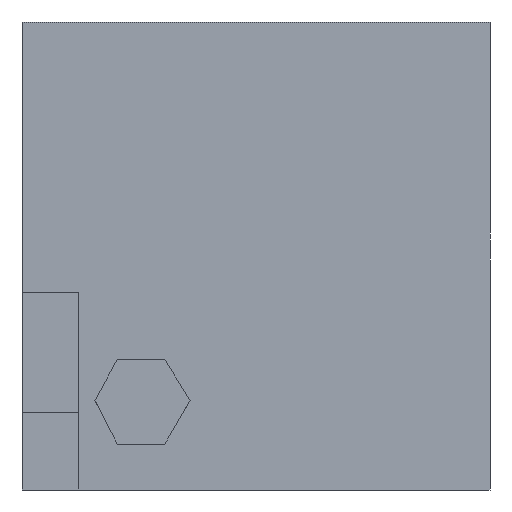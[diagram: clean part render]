
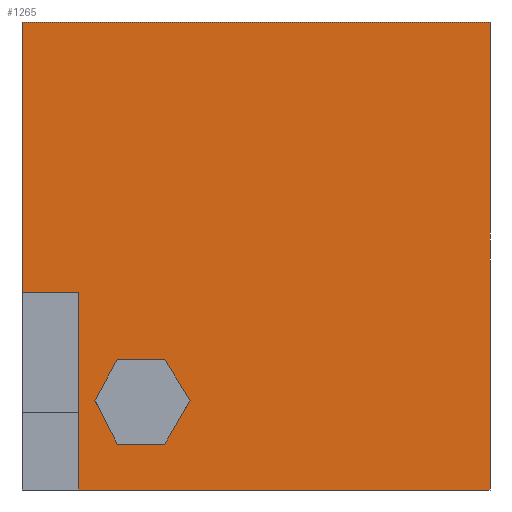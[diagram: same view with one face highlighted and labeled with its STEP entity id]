
A CAD part, front view. The second image highlights one B-rep face of the part: STEP entity #1265.
In plain terms, the highlighted planar face has unit normal (0, -1, 0).
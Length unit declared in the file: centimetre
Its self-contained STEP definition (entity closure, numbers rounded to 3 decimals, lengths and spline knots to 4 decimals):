
#16 = FACE_BOUND ( 'NONE', #440, .T. ) ;
#22 = CARTESIAN_POINT ( 'NONE',  ( 305.1581, 0., 98.0786 ) ) ;
#29 = CARTESIAN_POINT ( 'NONE',  ( 1000., 0., 1000. ) ) ;
#45 = CARTESIAN_POINT ( 'NONE',  ( 121.091, 0., 422.069 ) ) ;
#49 = VERTEX_POINT ( 'NONE', #849 ) ;
#64 = LINE ( 'NONE', #1094, #752 ) ;
#94 = CARTESIAN_POINT ( 'NONE',  ( 0., 0., 0. ) ) ;
#103 = CARTESIAN_POINT ( 'NONE',  ( 121.091, 0., 422.069 ) ) ;
#113 = ORIENTED_EDGE ( 'NONE', *, *, #590, .F. ) ;
#122 = DIRECTION ( 'NONE',  ( 1., 0., 0. ) ) ;
#149 = VERTEX_POINT ( 'NONE', #362 ) ;
#150 = VERTEX_POINT ( 'NONE', #782 ) ;
#153 = ORIENTED_EDGE ( 'NONE', *, *, #1056, .F. ) ;
#155 = VECTOR ( 'NONE', #673, 100. ) ;
#159 = DIRECTION ( 'NONE',  ( -0.532, 0., 0.847 ) ) ;
#161 = VERTEX_POINT ( 'NONE', #574 ) ;
#188 = EDGE_CURVE ( 'NONE', #498, #885, #768, .T. ) ;
#204 = LINE ( 'NONE', #103, #322 ) ;
#216 = CARTESIAN_POINT ( 'NONE',  ( 1000., 0., 1000. ) ) ;
#250 = EDGE_CURVE ( 'NONE', #505, #1040, #1027, .T. ) ;
#261 = EDGE_CURVE ( 'NONE', #885, #659, #604, .T. ) ;
#263 = VECTOR ( 'NONE', #464, 100. ) ;
#264 = CARTESIAN_POINT ( 'NONE',  ( 0., 0., 1000. ) ) ;
#311 = FACE_OUTER_BOUND ( 'NONE', #653, .T. ) ;
#319 = CARTESIAN_POINT ( 'NONE',  ( 155.8047, 0., 191.8682 ) ) ;
#322 = VECTOR ( 'NONE', #734, 100. ) ;
#339 = VECTOR ( 'NONE', #831, 100. ) ;
#343 = VECTOR ( 'NONE', #122, 100. ) ;
#348 = EDGE_CURVE ( 'NONE', #505, #545, #204, .T. ) ;
#362 = CARTESIAN_POINT ( 'NONE',  ( 305.1581, 0., 278.0974 ) ) ;
#373 = ORIENTED_EDGE ( 'NONE', *, *, #261, .F. ) ;
#409 = EDGE_CURVE ( 'NONE', #49, #877, #1178, .T. ) ;
#437 = CARTESIAN_POINT ( 'NONE',  ( 359.3076, 0., 191.8682 ) ) ;
#440 = EDGE_LOOP ( 'NONE', ( #153, #944, #1029, #1067, #1266, #113 ) ) ;
#448 = VECTOR ( 'NONE', #1171, 100. ) ;
#457 = EDGE_CURVE ( 'NONE', #150, #49, #839, .T. ) ;
#458 = VERTEX_POINT ( 'NONE', #437 ) ;
#464 = DIRECTION ( 'NONE',  ( 1., 0., 0. ) ) ;
#474 = EDGE_CURVE ( 'NONE', #498, #1040, #534, .T. ) ;
#497 = DIRECTION ( 'NONE',  ( 1., 0., 0. ) ) ;
#498 = VERTEX_POINT ( 'NONE', #264 ) ;
#505 = VERTEX_POINT ( 'NONE', #45 ) ;
#506 = CARTESIAN_POINT ( 'NONE',  ( 1000., 0., 0. ) ) ;
#534 = LINE ( 'NONE', #747, #448 ) ;
#545 = VERTEX_POINT ( 'NONE', #1215 ) ;
#574 = CARTESIAN_POINT ( 'NONE',  ( 203.4067, 0., 278.0974 ) ) ;
#590 = EDGE_CURVE ( 'NONE', #149, #161, #1319, .T. ) ;
#604 = LINE ( 'NONE', #216, #1350 ) ;
#620 = CARTESIAN_POINT ( 'NONE',  ( 305.1581, 0., 98.0786 ) ) ;
#629 = DIRECTION ( 'NONE',  ( 0., 0., 1. ) ) ;
#634 = ORIENTED_EDGE ( 'NONE', *, *, #188, .F. ) ;
#635 = LINE ( 'NONE', #620, #339 ) ;
#642 = VECTOR ( 'NONE', #972, 100. ) ;
#653 = EDGE_LOOP ( 'NONE', ( #1314, #843, #1114, #373, #634, #1246 ) ) ;
#659 = VERTEX_POINT ( 'NONE', #506 ) ;
#673 = DIRECTION ( 'NONE',  ( -1., 0., 0. ) ) ;
#734 = DIRECTION ( 'NONE',  ( 0., 0., -1. ) ) ;
#743 = DIRECTION ( 'NONE',  ( 0., 1., 0. ) ) ;
#747 = CARTESIAN_POINT ( 'NONE',  ( 0., 0., 1000. ) ) ;
#752 = VECTOR ( 'NONE', #159, 100. ) ;
#768 = LINE ( 'NONE', #798, #263 ) ;
#782 = CARTESIAN_POINT ( 'NONE',  ( 155.8047, 0., 191.8682 ) ) ;
#798 = CARTESIAN_POINT ( 'NONE',  ( 0., 0., 1000. ) ) ;
#807 = DIRECTION ( 'NONE',  ( -1., 0., 0. ) ) ;
#814 = CARTESIAN_POINT ( 'NONE',  ( 0., 0., 422.069 ) ) ;
#831 = DIRECTION ( 'NONE',  ( 0.5, 0., 0.866 ) ) ;
#839 = LINE ( 'NONE', #319, #1111 ) ;
#843 = ORIENTED_EDGE ( 'NONE', *, *, #348, .T. ) ;
#849 = CARTESIAN_POINT ( 'NONE',  ( 203.4067, 0., 98.0786 ) ) ;
#877 = VERTEX_POINT ( 'NONE', #22 ) ;
#885 = VERTEX_POINT ( 'NONE', #29 ) ;
#907 = CARTESIAN_POINT ( 'NONE',  ( 305.1581, 0., 278.0974 ) ) ;
#938 = DIRECTION ( 'NONE',  ( 0., 0., -1. ) ) ;
#944 = ORIENTED_EDGE ( 'NONE', *, *, #1234, .F. ) ;
#972 = DIRECTION ( 'NONE',  ( -0.483, 0., -0.875 ) ) ;
#981 = CARTESIAN_POINT ( 'NONE',  ( 203.4067, 0., 98.0786 ) ) ;
#1027 = LINE ( 'NONE', #814, #1179 ) ;
#1029 = ORIENTED_EDGE ( 'NONE', *, *, #409, .F. ) ;
#1031 = LINE ( 'NONE', #94, #1342 ) ;
#1036 = CARTESIAN_POINT ( 'NONE',  ( 203.4067, 0., 278.0974 ) ) ;
#1040 = VERTEX_POINT ( 'NONE', #1308 ) ;
#1056 = EDGE_CURVE ( 'NONE', #458, #149, #64, .T. ) ;
#1067 = ORIENTED_EDGE ( 'NONE', *, *, #457, .F. ) ;
#1069 = CARTESIAN_POINT ( 'NONE',  ( 0., 0., 1000. ) ) ;
#1094 = CARTESIAN_POINT ( 'NONE',  ( 359.3076, 0., 191.8682 ) ) ;
#1111 = VECTOR ( 'NONE', #1279, 100. ) ;
#1114 = ORIENTED_EDGE ( 'NONE', *, *, #1207, .T. ) ;
#1134 = LINE ( 'NONE', #1036, #642 ) ;
#1162 = PLANE ( 'NONE',  #1267 ) ;
#1171 = DIRECTION ( 'NONE',  ( 0., 0., -1. ) ) ;
#1178 = LINE ( 'NONE', #981, #343 ) ;
#1179 = VECTOR ( 'NONE', #807, 100. ) ;
#1207 = EDGE_CURVE ( 'NONE', #545, #659, #1031, .T. ) ;
#1214 = EDGE_CURVE ( 'NONE', #161, #150, #1134, .T. ) ;
#1215 = CARTESIAN_POINT ( 'NONE',  ( 121.091, 0., 0. ) ) ;
#1234 = EDGE_CURVE ( 'NONE', #877, #458, #635, .T. ) ;
#1246 = ORIENTED_EDGE ( 'NONE', *, *, #474, .T. ) ;
#1265 = ADVANCED_FACE ( 'NONE', ( #16, #311 ), #1162, .F. ) ;
#1266 = ORIENTED_EDGE ( 'NONE', *, *, #1214, .F. ) ;
#1267 = AXIS2_PLACEMENT_3D ( 'NONE', #1069, #743, #629 ) ;
#1279 = DIRECTION ( 'NONE',  ( 0.453, 0., -0.892 ) ) ;
#1308 = CARTESIAN_POINT ( 'NONE',  ( 0., 0., 422.069 ) ) ;
#1314 = ORIENTED_EDGE ( 'NONE', *, *, #250, .F. ) ;
#1319 = LINE ( 'NONE', #907, #155 ) ;
#1342 = VECTOR ( 'NONE', #497, 100. ) ;
#1350 = VECTOR ( 'NONE', #938, 100. ) ;
